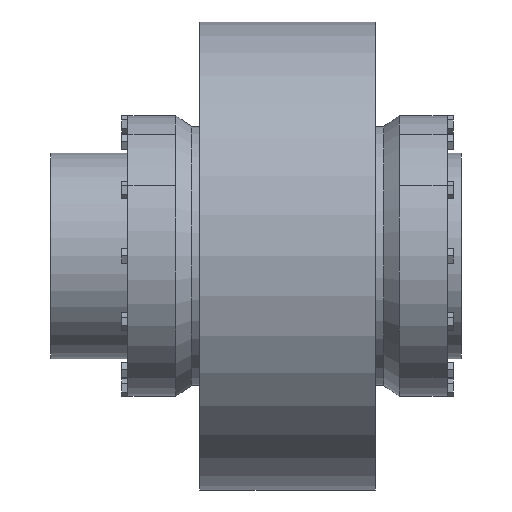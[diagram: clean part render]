
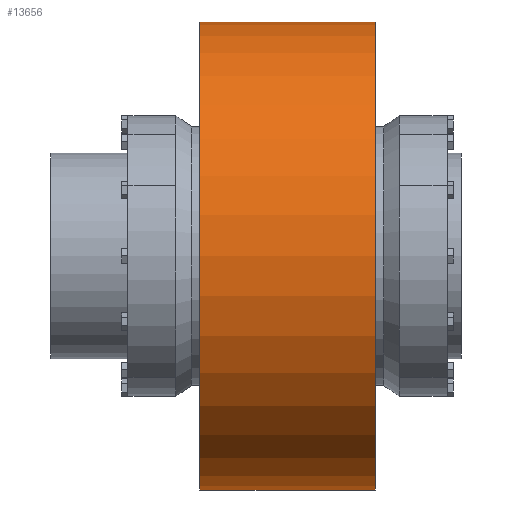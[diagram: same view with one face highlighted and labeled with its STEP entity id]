
A CAD part, top view. The second image highlights one B-rep face of the part: STEP entity #13656.
In plain terms, the highlighted cylindrical face has radius 200 mm (diameter 400 mm), a partial arc.
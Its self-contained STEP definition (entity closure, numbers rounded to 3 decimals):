
#13408=CARTESIAN_POINT('',(75.,0.,0.));
#13409=DIRECTION('',(1.,0.,0.));
#13410=DIRECTION('',(0.,1.,0.));
#13411=AXIS2_PLACEMENT_3D('',#13408,#13409,#13410);
#13413=DIRECTION('',(-1.,0.,0.));
#13414=VECTOR('',#13413,150.);
#13415=CARTESIAN_POINT('',(75.,200.,0.));
#13416=LINE('',#13415,#13414);
#13417=DIRECTION('',(-1.,0.,0.));
#13418=VECTOR('',#13417,150.);
#13419=CARTESIAN_POINT('',(75.,-200.,0.));
#13420=LINE('',#13419,#13418);
#13431=CARTESIAN_POINT('',(-75.,0.,0.));
#13432=DIRECTION('',(1.,0.,0.));
#13433=DIRECTION('',(0.,1.,0.));
#13434=AXIS2_PLACEMENT_3D('',#13431,#13432,#13433);
#13488=CARTESIAN_POINT('',(75.,200.,0.));
#13489=CARTESIAN_POINT('',(-75.,200.,0.));
#13490=VERTEX_POINT('',#13488);
#13491=VERTEX_POINT('',#13489);
#13496=CARTESIAN_POINT('',(75.,-200.,0.));
#13497=CARTESIAN_POINT('',(-75.,-200.,0.));
#13498=VERTEX_POINT('',#13496);
#13499=VERTEX_POINT('',#13497);
#13642=CARTESIAN_POINT('',(-82.5,0.,0.));
#13643=DIRECTION('',(1.,0.,0.));
#13644=DIRECTION('',(0.,-1.,0.));
#13645=AXIS2_PLACEMENT_3D('',#13642,#13643,#13644);
#13646=CYLINDRICAL_SURFACE('',#13645,200.);
#13648=ORIENTED_EDGE('',*,*,#13647,.F.);
#13649=ORIENTED_EDGE('',*,*,#13631,.T.);
#13651=ORIENTED_EDGE('',*,*,#13650,.T.);
#13653=ORIENTED_EDGE('',*,*,#13652,.F.);
#13654=EDGE_LOOP('',(#13648,#13649,#13651,#13653));
#13655=FACE_OUTER_BOUND('',#13654,.F.);
#13656=ADVANCED_FACE('',(#13655),#13646,.T.);
#13412=CIRCLE('',#13411,200.);
#13435=CIRCLE('',#13434,200.);
#13631=EDGE_CURVE('',#13490,#13498,#13412,.T.);
#13647=EDGE_CURVE('',#13490,#13491,#13416,.T.);
#13650=EDGE_CURVE('',#13498,#13499,#13420,.T.);
#13652=EDGE_CURVE('',#13491,#13499,#13435,.T.);
